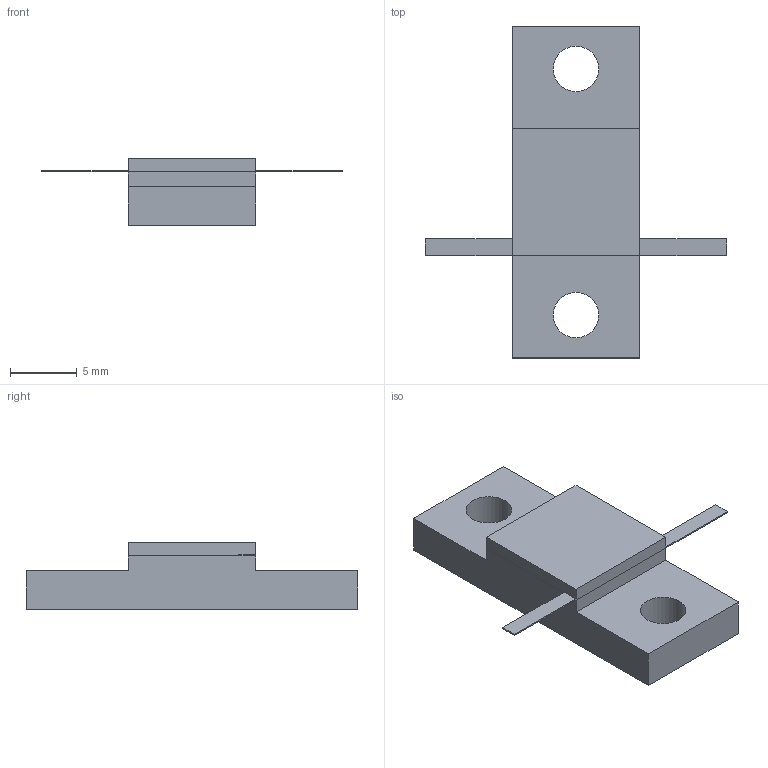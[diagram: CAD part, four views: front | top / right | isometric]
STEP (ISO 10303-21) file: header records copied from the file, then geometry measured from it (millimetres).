
FILE_DESCRIPTION(('STEP AP203'), '1');
FILE_NAME('ÏÐ1-22-100-2', '', ('UNSPECIFIED'), ('UNSPECIFIED'), 'C3D Converter', 'C3D Toolkit', '');
FILE_SCHEMA(('CONFIG_CONTROL_DESIGN'));
Length unit declared in the file: millimetre
Bounding box: 22.5 x 24.8 x 5 mm (x, y, z)
Volume: 821.7 mm3; surface area: 991.7 mm2
Topology: 4 solids, 4 shells, 30 faces, 66 edges, 44 vertices
Faces by surface type: plane 26, cylinder 2, extrusion 2
Full cylindrical faces by diameter (mm): 3.4 x2
Entity records: 1103 total; most frequent: CARTESIAN_POINT 147, ORIENTED_EDGE 128, DIRECTION 124, EDGE_CURVE 64, VECTOR 58, LINE 56, VERTEX_POINT 42, EDGE_LOOP 36
